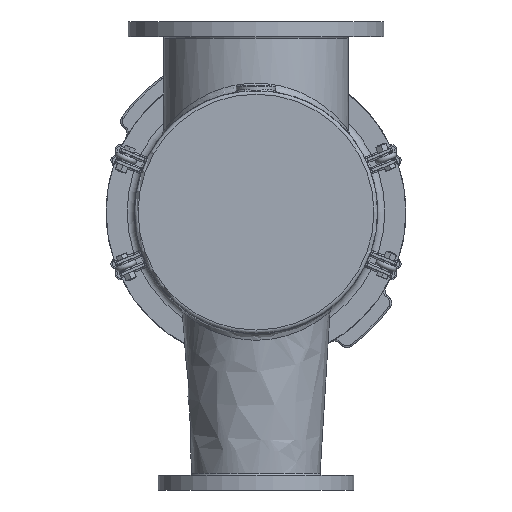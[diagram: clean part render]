
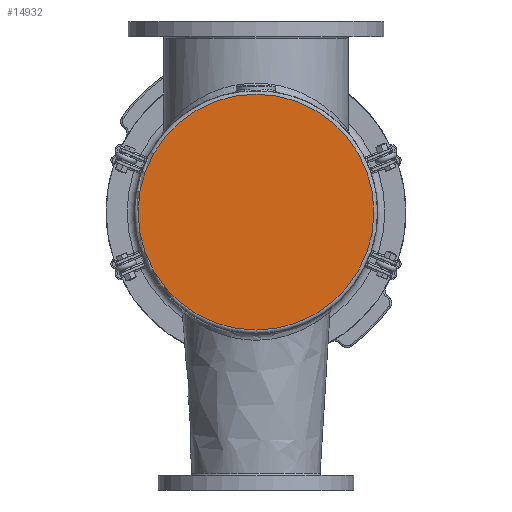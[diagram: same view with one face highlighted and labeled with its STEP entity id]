
A CAD part, front view. The second image highlights one B-rep face of the part: STEP entity #14932.
In plain terms, the highlighted planar face has unit normal (0, -1, 0).
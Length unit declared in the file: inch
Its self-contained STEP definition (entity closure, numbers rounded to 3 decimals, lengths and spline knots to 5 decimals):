
#2116=PLANE('',#15937);
#3351=FACE_OUTER_BOUND('',#4312,.T.);
#4312=EDGE_LOOP('',(#9938));
#5482=CIRCLE('',#15929,8.0625);
#6425=VERTEX_POINT('',#22874);
#7774=EDGE_CURVE('',#6425,#6425,#5482,.T.);
#9938=ORIENTED_EDGE('',*,*,#7774,.F.);
#14932=ADVANCED_FACE('',(#3351),#2116,.F.);
#15929=AXIS2_PLACEMENT_3D('',#22875,#17905,#17906);
#15937=AXIS2_PLACEMENT_3D('',#22886,#17921,#17922);
#17905=DIRECTION('center_axis',(0.,1.,0.));
#17906=DIRECTION('ref_axis',(1.,0.,0.));
#17921=DIRECTION('center_axis',(0.,1.,0.));
#17922=DIRECTION('ref_axis',(0.,0.,1.));
#22874=CARTESIAN_POINT('',(-8.0625,0.,0.));
#22875=CARTESIAN_POINT('Origin',(0.,0.,0.));
#22886=CARTESIAN_POINT('Origin',(0.,0.,0.));
